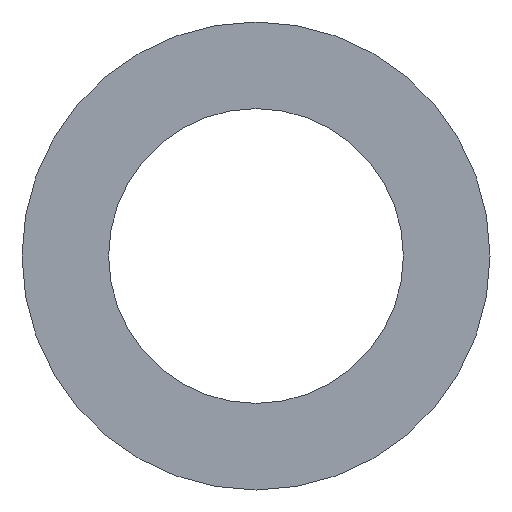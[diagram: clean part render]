
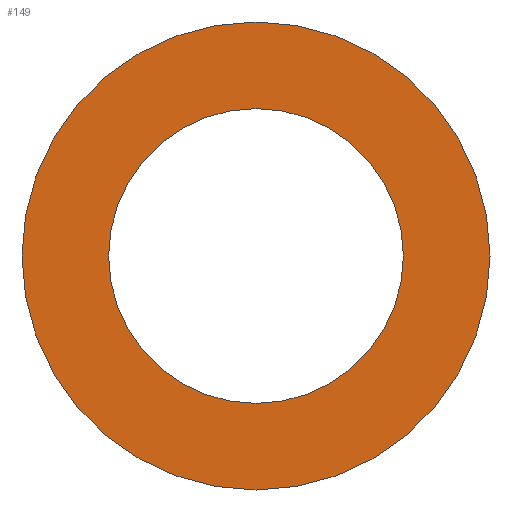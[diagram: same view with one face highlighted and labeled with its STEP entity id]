
A CAD part, left-side view. The second image highlights one B-rep face of the part: STEP entity #149.
In plain terms, the highlighted planar face has unit normal (-1, 0, 0).
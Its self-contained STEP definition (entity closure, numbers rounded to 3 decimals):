
#30=CARTESIAN_POINT('',(17.4,0.,26.3));
#31=DIRECTION('',(-1.,0.,0.));
#32=DIRECTION('',(0.,-1.,0.));
#33=AXIS2_PLACEMENT_3D('',#30,#31,#32);
#35=CARTESIAN_POINT('',(17.4,0.,26.3));
#36=DIRECTION('',(-1.,0.,0.));
#37=DIRECTION('',(0.,1.,0.));
#38=AXIS2_PLACEMENT_3D('',#35,#36,#37);
#40=CARTESIAN_POINT('',(17.4,0.,26.3));
#41=DIRECTION('',(1.,0.,0.));
#42=DIRECTION('',(0.,-1.,0.));
#43=AXIS2_PLACEMENT_3D('',#40,#41,#42);
#45=CARTESIAN_POINT('',(17.4,0.,26.3));
#46=DIRECTION('',(1.,0.,0.));
#47=DIRECTION('',(0.,1.,0.));
#48=AXIS2_PLACEMENT_3D('',#45,#46,#47);
#58=CARTESIAN_POINT('',(17.4,3.15,26.3));
#60=VERTEX_POINT('',#58);
#62=CARTESIAN_POINT('',(17.4,-3.15,26.3));
#64=VERTEX_POINT('',#62);
#66=CARTESIAN_POINT('',(17.4,-5.,26.3));
#68=VERTEX_POINT('',#66);
#70=CARTESIAN_POINT('',(17.4,5.,26.3));
#72=VERTEX_POINT('',#70);
#135=CARTESIAN_POINT('',(17.4,0.,26.3));
#136=DIRECTION('',(1.,0.,0.));
#137=DIRECTION('',(0.,1.,0.));
#138=AXIS2_PLACEMENT_3D('',#135,#136,#137);
#139=PLANE('',#138);
#140=ORIENTED_EDGE('',*,*,#129,.F.);
#141=ORIENTED_EDGE('',*,*,#115,.F.);
#142=EDGE_LOOP('',(#140,#141));
#143=FACE_OUTER_BOUND('',#142,.F.);
#145=ORIENTED_EDGE('',*,*,#144,.F.);
#146=ORIENTED_EDGE('',*,*,#83,.F.);
#147=EDGE_LOOP('',(#145,#146));
#148=FACE_BOUND('',#147,.F.);
#149=ADVANCED_FACE('',(#143,#148),#139,.F.);
#34=CIRCLE('',#33,5.);
#39=CIRCLE('',#38,5.);
#44=CIRCLE('',#43,3.15);
#49=CIRCLE('',#48,3.15);
#83=EDGE_CURVE('',#60,#64,#49,.T.);
#115=EDGE_CURVE('',#72,#68,#39,.T.);
#129=EDGE_CURVE('',#68,#72,#34,.T.);
#144=EDGE_CURVE('',#64,#60,#44,.T.);
